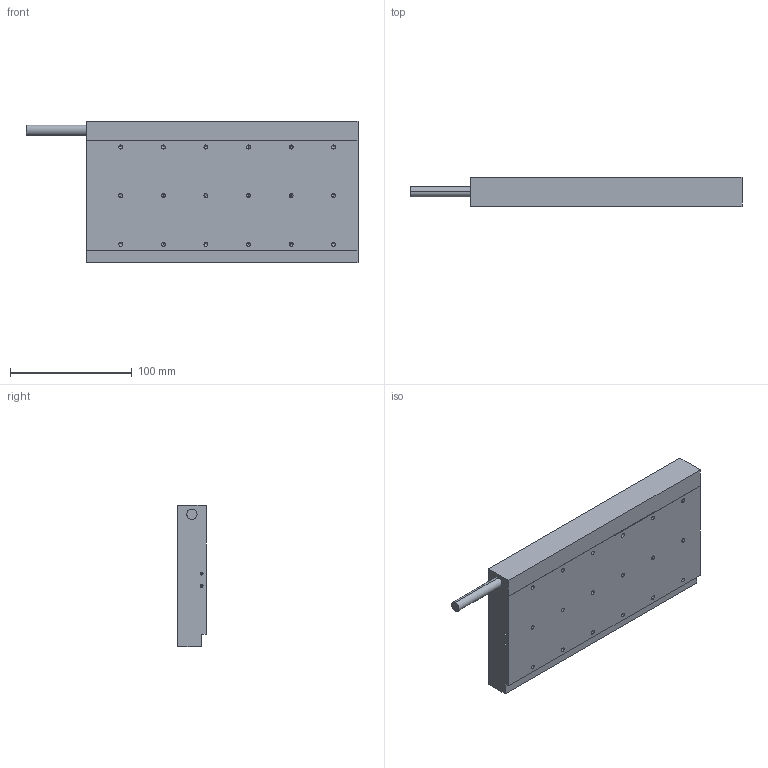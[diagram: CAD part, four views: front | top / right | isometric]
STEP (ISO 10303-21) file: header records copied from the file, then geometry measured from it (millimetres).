
FILE_DESCRIPTION (( 'STEP AP214' ), '1' );
FILE_NAME ('雄赽MK32.STEP', '2025-09-05T09:02:22', ( '' ), ( '' ), 'SwSTEP 2.0', 'SolidWorks 2016', '' );
FILE_SCHEMA (( 'AUTOMOTIVE_DESIGN' ));
Length unit declared in the file: millimetre
Products named in the file (1): 雄赽MK32
Bounding box: 273 x 23.7 x 116 mm (x, y, z)
Volume: 605224.6 mm3; surface area: 70318.1 mm2
Topology: 1 solids, 1 shells, 93 faces, 230 edges, 120 vertices
Faces by surface type: cylinder 42, cone 40, plane 11
Entity records: 2999 total; most frequent: DIRECTION 462, CARTESIAN_POINT 404, ORIENTED_EDGE 380, EDGE_CURVE 190, AXIS2_PLACEMENT_3D 178, VERTEX_POINT 120, EDGE_LOOP 114, VECTOR 106
